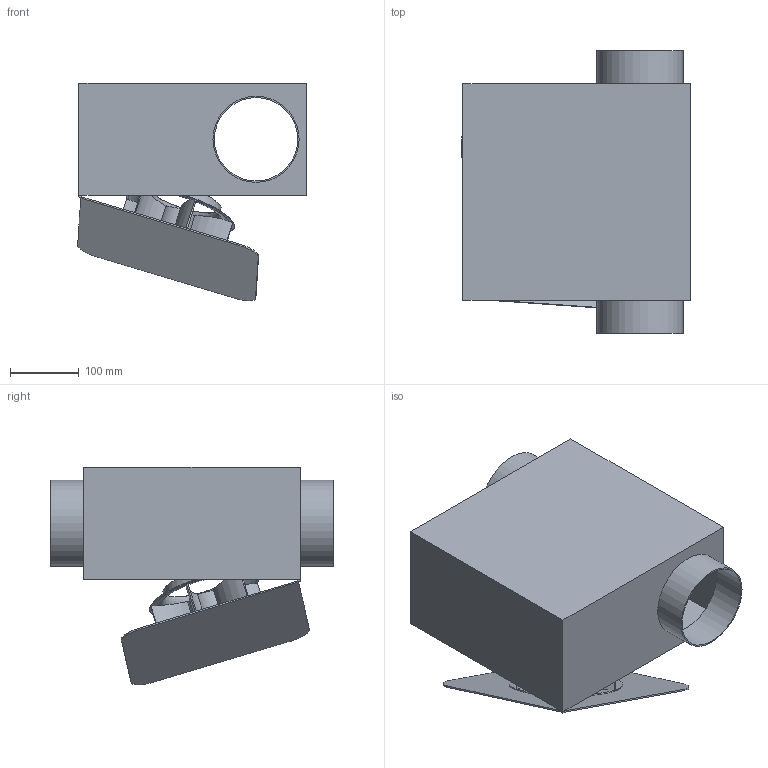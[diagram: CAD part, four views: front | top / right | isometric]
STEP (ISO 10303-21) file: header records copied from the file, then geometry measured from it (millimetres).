
FILE_DESCRIPTION(/* description */ (''),/* implementation_level */ '2;1');
FILE_NAME(/* name */ 'Z:\Output\SVR_EC_125-02531-004.stp',/* time_stamp */ '2021-04-16T13:47:05+02:00',/* author */ ('engineering1'),/* organization */ (''),/* preprocessor_version */ 'ST-DEVELOPER v17.2',/* originating_system */ 'Autodesk Inventor 2019',/* authorisation */ '');
FILE_SCHEMA (('AUTOMOTIVE_DESIGN { 1 0 10303 214 3 1 1 }'));
Length unit declared in the file: millimetre
Products named in the file (1): SVR-1
Bounding box: 331.92 x 410 x 315.98 mm (x, y, z)
Volume: 1027071.9 mm3; surface area: 1007397.7 mm2
Topology: 2 solids, 2 shells, 118 faces, 302 edges, 182 vertices
Faces by surface type: plane 60, cylinder 37, cone 19, torus 2
Full cylindrical faces by diameter (mm): 121 x2, 125 x2, 165 x2
Entity records: 3776 total; most frequent: CARTESIAN_POINT 873, DIRECTION 612, ORIENTED_EDGE 604, EDGE_CURVE 302, AXIS2_PLACEMENT_3D 239, VERTEX_POINT 182, LINE 134, VECTOR 134
